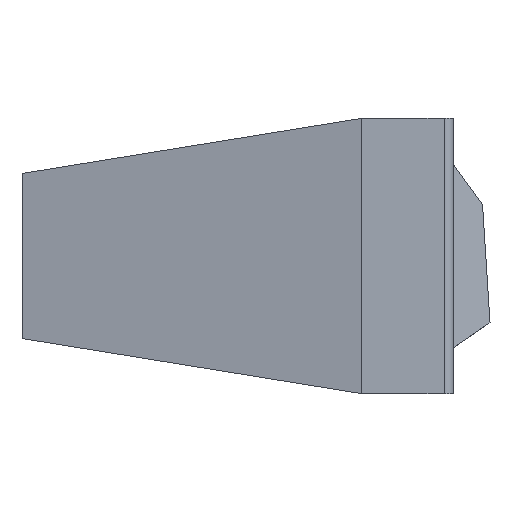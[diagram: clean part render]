
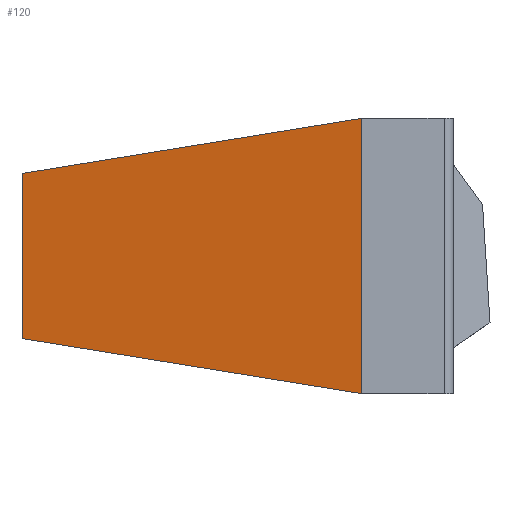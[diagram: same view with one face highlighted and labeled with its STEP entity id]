
A CAD part, left-side view. The second image highlights one B-rep face of the part: STEP entity #120.
In plain terms, the highlighted planar face has unit normal (-0.987, 0.16, 0).
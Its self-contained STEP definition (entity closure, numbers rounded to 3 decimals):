
#120 = ADVANCED_FACE( '', ( #224 ), #225, .F. );
#224 = FACE_OUTER_BOUND( '', #338, .T. );
#225 = PLANE( '', #339 );
#338 = EDGE_LOOP( '', ( #681, #682, #683, #684 ) );
#339 = AXIS2_PLACEMENT_3D( '', #685, #686, #687 );
#681 = ORIENTED_EDGE( '', *, *, #766, .T. );
#682 = ORIENTED_EDGE( '', *, *, #862, .F. );
#683 = ORIENTED_EDGE( '', *, *, #774, .T. );
#684 = ORIENTED_EDGE( '', *, *, #787, .F. );
#685 = CARTESIAN_POINT( '', ( -7.5, -18.5, 23.5 ) );
#686 = DIRECTION( '', ( 0.987, -0.16, 0. ) );
#687 = DIRECTION( '', ( -0.16, -0.987, 0. ) );
#766 = EDGE_CURVE( '', #895, #893, #896, .T. );
#774 = EDGE_CURVE( '', #911, #909, #912, .T. );
#787 = EDGE_CURVE( '', #895, #909, #929, .T. );
#862 = EDGE_CURVE( '', #911, #893, #1048, .T. );
#893 = VERTEX_POINT( '', #1088 );
#895 = VERTEX_POINT( '', #1091 );
#896 = LINE( '', #1092, #1093 );
#909 = VERTEX_POINT( '', #1112 );
#911 = VERTEX_POINT( '', #1115 );
#912 = LINE( '', #1116, #1117 );
#929 = LINE( '', #1144, #1145 );
#1048 = LINE( '', #1334, #1335 );
#1088 = CARTESIAN_POINT( '', ( -7.5, -18.5, -7.5 ) );
#1091 = CARTESIAN_POINT( '', ( -4.5, 0., -4.5 ) );
#1092 = CARTESIAN_POINT( '', ( -7.644, -19.386, -7.644 ) );
#1093 = VECTOR( '', #1378, 1. );
#1112 = CARTESIAN_POINT( '', ( -4.5, 0., 4.5 ) );
#1115 = CARTESIAN_POINT( '', ( -7.5, -18.5, 7.5 ) );
#1116 = CARTESIAN_POINT( '', ( -6.768, -13.987, 6.768 ) );
#1117 = VECTOR( '', #1386, 1. );
#1144 = CARTESIAN_POINT( '', ( -4.5, 0., 11.75 ) );
#1145 = VECTOR( '', #1403, 1. );
#1334 = CARTESIAN_POINT( '', ( -7.5, -18.5, 8. ) );
#1335 = VECTOR( '', #1486, 1. );
#1378 = DIRECTION( '', ( -0.158, -0.975, -0.158 ) );
#1386 = DIRECTION( '', ( 0.158, 0.975, -0.158 ) );
#1403 = DIRECTION( '', ( 0., 0., 1. ) );
#1486 = DIRECTION( '', ( 0., 0., -1. ) );
